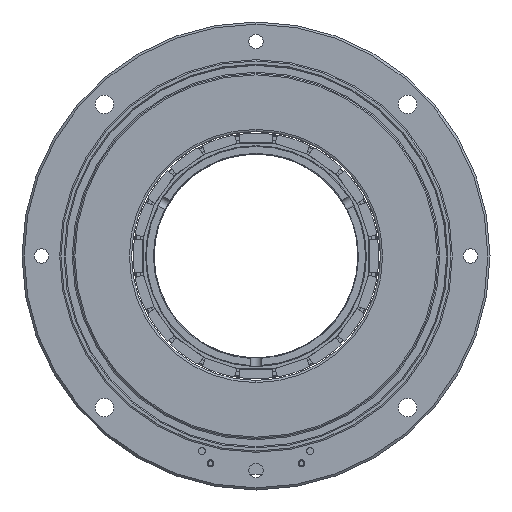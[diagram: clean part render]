
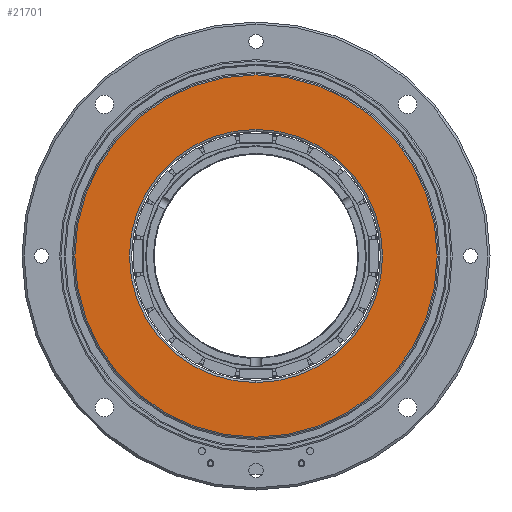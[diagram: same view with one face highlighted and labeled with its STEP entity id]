
A CAD part, left-side view. The second image highlights one B-rep face of the part: STEP entity #21701.
In plain terms, the highlighted planar face has unit normal (-1, 0, 0).
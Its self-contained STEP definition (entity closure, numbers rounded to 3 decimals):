
#2917=CARTESIAN_POINT('',(-19.2,0.,0.));
#2918=DIRECTION('',(-1.,0.,0.));
#2919=DIRECTION('',(0.,0.,-1.));
#2920=AXIS2_PLACEMENT_3D('',#2917,#2918,#2919);
#2925=CARTESIAN_POINT('',(-19.2,0.,0.));
#2926=DIRECTION('',(-1.,0.,0.));
#2927=DIRECTION('',(0.,0.,1.));
#2928=AXIS2_PLACEMENT_3D('',#2925,#2926,#2927);
#2933=CARTESIAN_POINT('',(-19.2,0.,0.));
#2934=DIRECTION('',(-1.,0.,0.));
#2935=DIRECTION('',(0.,0.,1.));
#2936=AXIS2_PLACEMENT_3D('',#2933,#2934,#2935);
#2941=CARTESIAN_POINT('',(-19.2,0.,0.));
#2942=DIRECTION('',(-1.,0.,0.));
#2943=DIRECTION('',(0.,0.,-1.));
#2944=AXIS2_PLACEMENT_3D('',#2941,#2942,#2943);
#17008=CARTESIAN_POINT('',(-19.2,0.,-41.8));
#17009=CARTESIAN_POINT('',(-19.2,0.,41.8));
#17010=VERTEX_POINT('',#17008);
#17011=VERTEX_POINT('',#17009);
#17036=CARTESIAN_POINT('',(-19.2,0.,29.215));
#17037=CARTESIAN_POINT('',(-19.2,0.,-29.215));
#17038=VERTEX_POINT('',#17036);
#17039=VERTEX_POINT('',#17037);
#21685=CARTESIAN_POINT('',(-19.2,0.,0.));
#21686=DIRECTION('',(-1.,0.,0.));
#21687=DIRECTION('',(0.,0.,-1.));
#21688=AXIS2_PLACEMENT_3D('',#21685,#21686,#21687);
#21689=PLANE('',#21688);
#21690=ORIENTED_EDGE('',*,*,#21675,.F.);
#21692=ORIENTED_EDGE('',*,*,#21691,.F.);
#21693=EDGE_LOOP('',(#21690,#21692));
#21694=FACE_OUTER_BOUND('',#21693,.F.);
#21696=ORIENTED_EDGE('',*,*,#21695,.T.);
#21698=ORIENTED_EDGE('',*,*,#21697,.T.);
#21699=EDGE_LOOP('',(#21696,#21698));
#21700=FACE_BOUND('',#21699,.F.);
#21701=ADVANCED_FACE('',(#21694,#21700),#21689,.T.);
#2921=CIRCLE('',#2920,41.8);
#2929=CIRCLE('',#2928,41.8);
#2937=CIRCLE('',#2936,29.215);
#2945=CIRCLE('',#2944,29.215);
#21675=EDGE_CURVE('',#17010,#17011,#2921,.T.);
#21691=EDGE_CURVE('',#17011,#17010,#2929,.T.);
#21695=EDGE_CURVE('',#17038,#17039,#2937,.T.);
#21697=EDGE_CURVE('',#17039,#17038,#2945,.T.);
